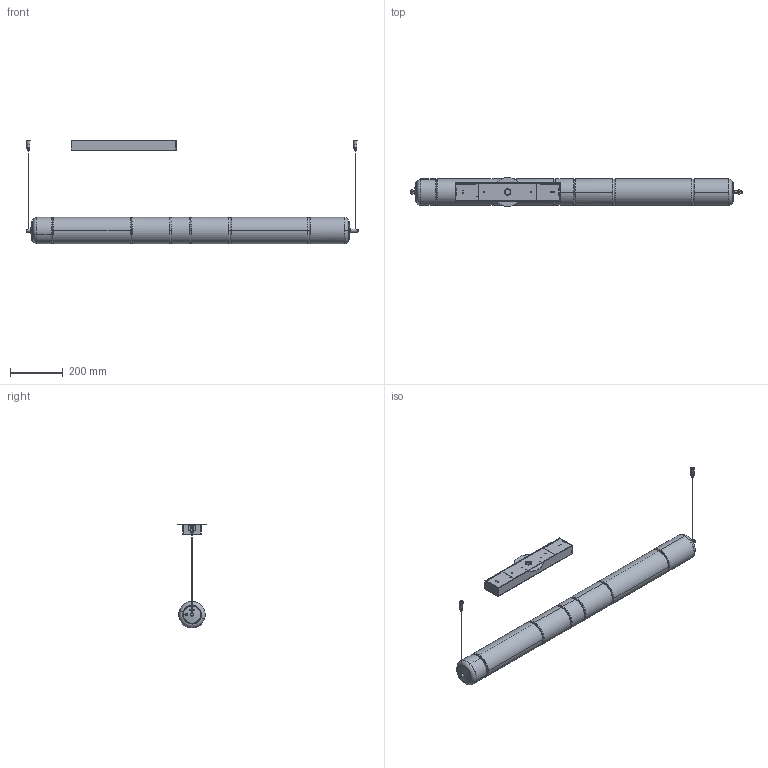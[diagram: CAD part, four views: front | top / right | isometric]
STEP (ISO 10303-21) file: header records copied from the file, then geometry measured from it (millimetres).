
FILE_DESCRIPTION(/* description */ (''),/* implementation_level */ '2;1');
FILE_NAME(/* name */ '00343MP8LD00ULPB - STACKING S 120 H GLASS USA',/* time_stamp */ '2023-09-27T17:42:23+02:00',/* author */ (''),/* organization */ (''),/* preprocessor_version */ 'ST-DEVELOPER v16.5',/* originating_system */ 'Rhino 7.27',/* authorisation */ '');
FILE_SCHEMA (('CONFIG_CONTROL_DESIGN'));
Length unit declared in the file: millimetre
Products named in the file (1): Document
Bounding box: 1261 x 110 x 393.5 mm (x, y, z)
Volume: 2079963.6 mm3; surface area: 1746243.6 mm2
Topology: 32 solids, 32 shells, 1064 faces, 2549 edges, 1650 vertices
Faces by surface type: plane 468, cylinder 353, bspline 243
Entity records: 35894 total; most frequent: CARTESIAN_POINT 18904, ORIENTED_EDGE 5066, EDGE_CURVE 2533, VERTEX_POINT 1650, EDGE_LOOP 1277, B_SPLINE_CURVE_WITH_KNOTS 1171, ADVANCED_FACE 1064, FACE_OUTER_BOUND 1064
